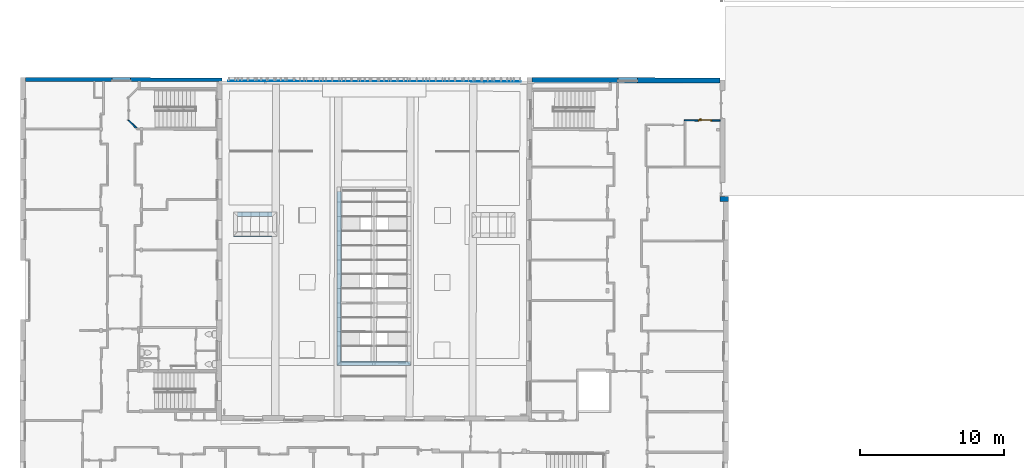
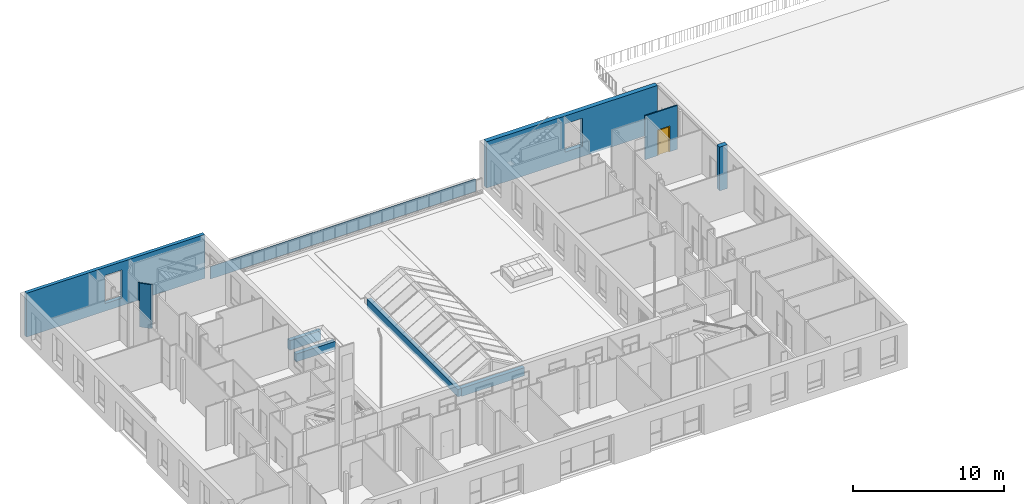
# One storey, part 89 of 101: 10 walls, 1 door, 3 openings.
"""IFC2X3 building model written with IfcOpenShell, lengths in metres."""

from ifc_helpers import new_model, entity, si_unit, converted_unit, derived_unit, direction, frame, frame_2d, origin, place, context, subcontext, project, spatial, polyline, rectangle, outline, extrude, faceted_brep, source, transform, mapped, material, material_list, layer, layer_set, layer_usage, type_object, type_shapes, element, fill, save


model = new_model("IFC2X3")

# Units and contexts
model_context = context("Model", 3, precision=1e-05, world=origin(), true_north=direction((6.123233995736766e-17, 1.0)))
body_context = subcontext(model_context, "Body", "Model", "MODEL_VIEW")
ifc_project = project(units=[si_unit("LENGTHUNIT", "METRE"), si_unit("AREAUNIT", "SQUARE_METRE"), converted_unit("PLANEANGLEUNIT", "DEGREE", entity("IfcPlaneAngleMeasure", 0.017453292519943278), si_unit("PLANEANGLEUNIT", "RADIAN"), dimensions=[0, 0, 0, 0, 0, 0, 0]), derived_unit("THERMALTRANSMITTANCEUNIT", [(si_unit("MASSUNIT", "GRAM", prefix="KILO"), 1), (si_unit("THERMODYNAMICTEMPERATUREUNIT", "KELVIN"), -1), (si_unit("TIMEUNIT", "SECOND"), -3)])], contexts=[model_context])

# Site, building, storey
site_placement = place(None, frame((1253.6752467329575, 2072.143113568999, 91.49999999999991), z_axis=(0.0, 0.0, 1.0), x_axis=(0.7237211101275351, 0.6900925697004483, 0.0)))
site = spatial("IfcSite", under=ifc_project, at=site_placement, Name="Surface", CompositionType="ELEMENT")
building_placement = place(site_placement, origin())
building = spatial("IfcBuilding", under=site, at=building_placement, CompositionType="ELEMENT")
storey_placement = place(building_placement, origin())
storey = spatial("IfcBuildingStorey", under=building, at=storey_placement, Name="0- Rdc", CompositionType="ELEMENT", Elevation=-5.764692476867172e-13)

# Wall
ifc_material_1 = material(Name="OMD_Béton blanc")
ifc_layer_1 = layer(ifc_material_1, 0.35)
ifc_layer_set_1 = layer_set([ifc_layer_1], Name="Mur de base:MUR 35")
ifc_layer_usage_1 = layer_usage(ifc_layer_set_1, "AXIS2", "NEGATIVE", 0.175)
wall_type_1 = type_object("IfcWallType", Name="Mur de base:MUR 35", PredefinedType="STANDARD", material=ifc_layer_set_1)
wall_1_placement = place(storey_placement, frame((195.5185659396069, -11.905046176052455, 0.0), z_axis=(0.0, 0.0, 1.0), x_axis=(0.722870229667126, -0.6909838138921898, 0.0)))
element("IfcWallStandardCase", 1, at=wall_1_placement, inside=storey, type_object=wall_type_1, material=ifc_layer_usage_1, Name="Mur de base:MUR 35", ObjectType="Mur de base:MUR 35", context=body_context, shape_type="SweptSolid", body=[
    extrude(rectangle(XDim=0.5947086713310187, YDim=0.3499999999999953, at=frame_2d((0.29735433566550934, 4.3021142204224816e-16), x_axis=(-1.0, 0.0))), origin(), (0.0, 0.0, 1.0), 3.5499999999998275),
])

# Wall, opening
ifc_layer_usage_2 = layer_usage(ifc_layer_set_1, "AXIS2", "NEGATIVE", 0.175)
wall_2_placement = place(storey_placement, frame((191.759474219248, 3.0890671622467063, -0.20000000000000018), z_axis=(0.0, 0.0, 1.0), x_axis=(0.7228702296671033, -0.6909838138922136, 0.0)))
wall_2 = element("IfcWallStandardCase", 2, at=wall_2_placement, inside=storey, type_object=wall_type_1, material=ifc_layer_usage_2, Name="Mur de base:MUR 35", ObjectType="Mur de base:MUR 35", context=body_context, shape_type="SweptSolid", body=[
    extrude(outline(polyline([(-0.16602945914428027, -6.535731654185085), (0.18397087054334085, -6.535731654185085), (0.16602924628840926, 6.535886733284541), (-0.18397065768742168, 6.535576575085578), (-0.16602945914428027, -6.535731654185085)])), frame((6.535822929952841, 0.0, 0.0), z_axis=(0.0, 0.0, 1.0), x_axis=(0.0013725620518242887, 0.9999990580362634, 0.0)), (0.0, 0.0, 1.0), 3.749999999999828),
])
opening_1_placement = place(storey_placement, frame((191.759474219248, 3.0890671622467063, -0.20000000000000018), z_axis=(0.0, 0.0, 1.0), x_axis=(0.7228702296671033, -0.6909838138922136, 0.0)))
element("IfcOpeningElement", 3, at=opening_1_placement, cuts=wall_2, Name="Mur de base:MUR 35:1", ObjectType="Opening", context=body_context, shape_type="SweptSolid", body=[
    extrude(rectangle(XDim=2.280000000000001, YDim=1.3331914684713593, at=frame_2d((-1.1102230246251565e-16, -1.8485213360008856e-14), x_axis=(1.0, 0.0))), frame((6.659329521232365, 0.17499999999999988, 1.960000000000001), z_axis=(0.0, -1.0, 0.0), x_axis=(0.0, 0.0, -1.0)), (0.0, 0.0, 1.0), 0.34999999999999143),
])

ifc_layer_2 = layer(ifc_material_1, 0.25999999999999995)
ifc_layer_set_2 = layer_set([ifc_layer_2], Name="Mur de base:MUR 26")
ifc_layer_usage_3 = layer_usage(ifc_layer_set_2, "AXIS2", "NEGATIVE", 0.12999999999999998)
wall_type_2 = type_object("IfcWallType", Name="Mur de base:MUR 26", PredefinedType="STANDARD", material=ifc_layer_set_2)
wall_3_placement = place(storey_placement, frame((166.33860651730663, 27.39110752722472, 0.0), z_axis=(0.0, 0.0, 1.0), x_axis=(0.7228702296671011, -0.6909838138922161, 0.0)))
wall_3 = element("IfcWallStandardCase", 4, at=wall_3_placement, inside=storey, type_object=wall_type_2, material=ifc_layer_usage_3, Name="Mur de base:MUR 26", ObjectType="Mur de base:MUR 26", context=body_context, shape_type="SweptSolid", body=[
    extrude(outline(polyline([(-0.047272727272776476, -6.672910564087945), (0.21272727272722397, -6.672910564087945), (0.21272727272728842, 6.96806684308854), (-0.04727272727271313, 6.968128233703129), (-0.04727272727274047, 2.2470894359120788), (-0.04727272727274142, 2.177089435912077), (-0.04727272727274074, 1.6270894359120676), (-0.04727272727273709, 1.4970894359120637), (-0.04727272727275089, -0.8429105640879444), (-0.047272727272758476, -0.9729105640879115), (-0.04727272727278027, -6.322910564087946), (-0.047272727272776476, -6.672910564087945)])), frame((6.968128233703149, -0.08272727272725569, 0.0), z_axis=(0.0, 0.0, 1.0), x_axis=(0.0, 1.0, 0.0)), (0.0, 0.0, 1.0), 3.5499999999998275),
])
opening_2_placement = place(storey_placement, frame((166.33860651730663, 27.39110752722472, 0.0), z_axis=(0.0, 0.0, 1.0), x_axis=(0.7228702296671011, -0.6909838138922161, 0.0)))
element("IfcOpeningElement", 5, at=opening_2_placement, cuts=wall_3, Name="Mur de base:MUR 26:1", ObjectType="Opening", context=body_context, shape_type="SweptSolid", body=[
    extrude(rectangle(XDim=2.2799999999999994, YDim=1.2996959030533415, at=frame_2d((1.1102230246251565e-16, -2.758904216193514e-14), x_axis=(1.0, 0.0))), frame((6.644364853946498, -0.12999999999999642, 1.76), z_axis=(0.0, 1.0, 0.0), x_axis=(0.0, 0.0, -1.0)), (0.0, 0.0, 1.0), 0.25999999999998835),
])

# Wall, opening, door
ifc_layer_3 = layer(ifc_material_1, 0.1)
ifc_layer_set_3 = layer_set([ifc_layer_3], Name="Mur de base:MUR 10")
ifc_layer_usage_4 = layer_usage(ifc_layer_set_3, "AXIS2", "NEGATIVE", 0.05)
wall_type_3 = type_object("IfcWallType", Name="Mur de base:MUR 10", PredefinedType="STANDARD", material=ifc_layer_set_3)
wall_4_placement = place(storey_placement, frame((197.50618801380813, -6.2449982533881, 0.0), z_axis=(0.0, 0.0, 1.0), x_axis=(0.7228702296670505, -0.6909838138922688, 0.0)))
wall_4 = element("IfcWallStandardCase", 6, at=wall_4_placement, inside=storey, type_object=wall_type_3, material=ifc_layer_usage_4, Name="Mur de base:MUR 10", ObjectType="Mur de base:MUR 10", context=body_context, shape_type="SweptSolid", body=[
    extrude(rectangle(XDim=2.4742086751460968, YDim=0.10000000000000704, at=frame_2d((1.2371043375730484, 1.0998146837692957e-15), x_axis=(-1.0, 0.0))), origin(), (0.0, 0.0, 1.0), 3.5499999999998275),
])
opening_3_placement = place(wall_4_placement, frame((0.9414173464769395, -0.05000000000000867, 0.0)))
opening_3 = element("IfcOpeningElement", 7, at=opening_3_placement, cuts=wall_4, Name="OMD_Porte 1V tunnel:80x204:1", ObjectType="Opening", context=body_context, shape_type="SweptSolid", body=[
    extrude(rectangle(XDim=2.0850000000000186, YDim=0.9349999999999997, at=frame_2d((1.0425000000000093, 0.46749999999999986), x_axis=(1.0, 0.0))), frame((0.0, 0.0, 0.0), z_axis=(0.0, 1.0, 0.0), x_axis=(0.0, 0.0, 1.0)), (0.0, 0.0, 1.0), 0.1),
])
ifc_material_2 = material(Name="Porte - Poignée")
ifc_material_3 = material(Name="OMD_Peinture mur")
ifc_material_4 = material(Name="OMD_Bois")
ifc_material_list = material_list([ifc_material_2, ifc_material_3, ifc_material_4])
door_style = type_object("IfcDoorStyle", Name="OMD_Porte 1V tunnel:80x204", ConstructionType="NOTDEFINED", OperationType="NOTDEFINED", ParameterTakesPrecedence=False, Sizeable=False, material=ifc_material_list)
shared_shape = source(origin(), body_context, "Body", "Brep", [
    faceted_brep([(0.8220252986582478, 0.03500000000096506, 1.0077804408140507), (0.8179747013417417, 0.03500000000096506, 1.007780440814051), (0.8139999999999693, 0.03500000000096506, 1.00699999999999), (0.8139999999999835, 0.03500000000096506, 0.9930000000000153), (0.8179747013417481, 0.03500000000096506, 0.9922195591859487), (0.8220252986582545, 0.03500000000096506, 0.9922195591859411), (0.8260000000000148, 0.03500000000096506, 0.9929999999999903), (0.826000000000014, 0.03500000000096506, 1.006999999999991), (0.8139999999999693, 0.05748520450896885, 1.00699999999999), (0.8139999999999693, 0.05748520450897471, 0.9930000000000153), (0.8179747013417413, 0.059131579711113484, 1.007780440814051), (0.8220252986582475, 0.060809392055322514, 1.0077804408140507), (0.8058389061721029, 0.07699578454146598, 1.0077804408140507), (0.8041610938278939, 0.07294518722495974, 1.007780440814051), (0.7207931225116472, 0.07294518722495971, 1.0077804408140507), (0.7191153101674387, 0.07699578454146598, 1.0077804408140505), (0.7114510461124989, 0.06933152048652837, 1.0077804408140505), (0.714315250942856, 0.0664673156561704, 1.0077804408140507), (0.8260000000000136, 0.062455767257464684, 1.006999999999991), (0.8260000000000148, 0.062455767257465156, 0.9929999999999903), (0.8220252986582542, 0.06080939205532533, 0.9922195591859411), (0.8179747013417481, 0.05913157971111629, 0.9922195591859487), (0.8041610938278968, 0.07294518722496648, 0.9922195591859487), (0.8058389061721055, 0.07699578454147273, 0.9922195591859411), (0.7191153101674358, 0.07699578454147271, 0.9922195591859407), (0.7207931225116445, 0.07294518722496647, 0.9922195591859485), (0.7143152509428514, 0.06646731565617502, 0.9922195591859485), (0.7114510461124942, 0.06933152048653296, 0.9922195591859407), (0.8025147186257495, 0.06897048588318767, 1.00699999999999), (0.8025147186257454, 0.06897048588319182, 0.9930000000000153), (0.8074852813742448, 0.08097048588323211, 1.006999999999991), (0.8074852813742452, 0.08097048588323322, 0.9929999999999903), (0.7624771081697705, 0.06897048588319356, 1.0069999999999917), (0.7224394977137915, 0.06897048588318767, 1.0069999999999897), (0.7224394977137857, 0.0689704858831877, 0.9930000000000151), (0.7624771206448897, 0.06897048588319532, 0.9930000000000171), (0.7624771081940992, 0.07512492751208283, 1.0078781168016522), (0.7573994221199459, 0.08097048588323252, 1.0069999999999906), (0.7174689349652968, 0.08097048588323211, 1.0069999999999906), (0.7675547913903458, 0.08097048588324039, 0.9929999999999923), (0.7174689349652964, 0.08097048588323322, 0.99299999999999), (0.762477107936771, 0.07512492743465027, 0.9921218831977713), (0.7086405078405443, 0.07214205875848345, 1.0069999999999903), (0.7086405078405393, 0.07214205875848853, 0.9929999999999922), (0.7171257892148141, 0.06365677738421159, 0.9930000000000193), (0.71712578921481, 0.06365677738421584, 1.0069999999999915)], [[[0, 1, 2, 3, 4, 5, 6, 7]], [[8, 9, 3, 2]], [[1, 10, 8, 2]], [[1, 0, 11, 12, 13, 10]], [[14, 15, 16, 17]], [[7, 18, 11, 0]], [[18, 7, 6, 19]], [[6, 5, 20, 19]], [[5, 4, 21, 22, 23, 20]], [[24, 25, 26, 27]], [[4, 3, 9, 21]], [[28, 29, 9, 8]], [[8, 10, 13, 28]], [[18, 30, 12, 11]], [[31, 30, 18, 19]], [[19, 20, 23, 31]], [[21, 9, 29, 22]], [[29, 28, 32, 33, 34, 35]], [[36, 32, 13]], [[37, 38, 15]], [[37, 12, 30]], [[36, 12, 37]], [[14, 32, 36]], [[36, 15, 14]], [[28, 13, 32]], [[32, 14, 33]], [[12, 36, 13]], [[15, 36, 37]], [[30, 31, 39, 40, 38, 37]], [[23, 41, 39]], [[24, 39, 41]], [[39, 31, 23]], [[39, 24, 40]], [[22, 35, 41]], [[41, 23, 22]], [[41, 35, 25]], [[35, 22, 29]], [[34, 25, 35]], [[24, 41, 25]], [[17, 16, 42, 43, 27, 26, 44, 45]], [[45, 44, 34, 33]], [[33, 14, 17, 45]], [[15, 38, 42, 16]], [[43, 42, 38, 40]], [[24, 27, 43, 40]], [[34, 44, 26, 25]]]),
    faceted_brep([(0.817974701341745, -0.004999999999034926, 1.007780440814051), (0.8220252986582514, -0.004999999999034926, 1.0077804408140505), (0.8260000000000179, -0.004999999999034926, 1.0069999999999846), (0.8260000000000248, -0.004999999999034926, 0.9929999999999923), (0.8220252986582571, -0.004999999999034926, 0.992219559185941), (0.817974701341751, -0.004999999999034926, 0.9922195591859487), (0.8139999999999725, -0.004999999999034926, 0.9930000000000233), (0.8139999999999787, -0.004999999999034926, 1.006999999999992), (0.8220252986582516, -0.03100457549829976, 1.0077804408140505), (0.8260000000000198, -0.03265095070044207, 1.0069999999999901), (0.8179747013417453, -0.02932676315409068, 1.007780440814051), (0.8042986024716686, -0.04300286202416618, 1.007780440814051), (0.8059764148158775, -0.04705345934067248, 1.0077804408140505), (0.7191424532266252, -0.04705345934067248, 1.0077804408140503), (0.7208202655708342, -0.04300286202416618, 1.0077804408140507), (0.714342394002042, -0.03652499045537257, 1.0077804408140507), (0.7114781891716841, -0.039389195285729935, 1.0077804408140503), (0.813999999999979, -0.02768038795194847, 1.006999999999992), (0.8139999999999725, -0.02768038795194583, 0.9930000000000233), (0.817974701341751, -0.029326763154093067, 0.9922195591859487), (0.8220252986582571, -0.031004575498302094, 0.992219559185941), (0.8059764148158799, -0.0470534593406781, 0.992219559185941), (0.804298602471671, -0.04300286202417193, 0.9922195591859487), (0.7208202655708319, -0.04300286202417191, 0.9922195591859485), (0.7191424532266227, -0.047053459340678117, 0.9922195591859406), (0.71147818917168, -0.03938919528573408, 0.9922195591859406), (0.7143423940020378, -0.036524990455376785, 0.9922195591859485), (0.8260000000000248, -0.032650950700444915, 0.9929999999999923), (0.807622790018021, -0.051028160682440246, 1.0069999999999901), (0.8026522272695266, -0.03902816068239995, 1.006999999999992), (0.8026522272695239, -0.03902816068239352, 0.9930000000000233), (0.8076227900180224, -0.05102816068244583, 0.9929999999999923), (0.762559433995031, -0.0451828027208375, 1.0078781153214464), (0.7676923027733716, -0.05102816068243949, 1.0069999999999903), (0.7174960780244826, -0.05102816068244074, 1.00699999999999), (0.7625594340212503, -0.03902816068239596, 1.0069999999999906), (0.7224666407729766, -0.039028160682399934, 1.0069999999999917), (0.7625594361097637, -0.03902816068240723, 0.9930000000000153), (0.7224666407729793, -0.03902816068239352, 0.9930000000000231), (0.7625594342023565, -0.04518280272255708, 0.9921218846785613), (0.7574265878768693, -0.051028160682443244, 0.9929999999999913), (0.7174960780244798, -0.05102816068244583, 0.9929999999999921), (0.7171529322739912, -0.033714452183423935, 0.9930000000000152), (0.7086676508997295, -0.04219973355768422, 0.9929999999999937), (0.7086676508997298, -0.04219973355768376, 1.0069999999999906), (0.717152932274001, -0.03371445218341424, 1.0069999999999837)], [[[0, 1, 2, 3, 4, 5, 6, 7]], [[2, 1, 8, 9]], [[1, 0, 10, 11, 12, 8]], [[13, 14, 15, 16]], [[0, 7, 17, 10]], [[18, 17, 7, 6]], [[5, 19, 18, 6]], [[5, 4, 20, 21, 22, 19]], [[23, 24, 25, 26]], [[3, 27, 20, 4]], [[9, 27, 3, 2]], [[9, 8, 12, 28]], [[10, 17, 29, 11]], [[30, 29, 17, 18]], [[18, 19, 22, 30]], [[20, 27, 31, 21]], [[28, 31, 27, 9]], [[12, 32, 33]], [[13, 33, 32]], [[33, 28, 12]], [[33, 13, 34]], [[11, 35, 32]], [[32, 12, 11]], [[32, 35, 14]], [[35, 11, 29]], [[36, 14, 35]], [[13, 32, 14]], [[29, 30, 37, 38, 36, 35]], [[39, 37, 22]], [[40, 41, 24]], [[40, 21, 31]], [[39, 21, 40]], [[23, 37, 39]], [[39, 24, 23]], [[30, 22, 37]], [[37, 23, 38]], [[21, 39, 22]], [[24, 39, 40]], [[31, 28, 33, 34, 41, 40]], [[42, 26, 25, 43, 44, 16, 15, 45]], [[13, 16, 44, 34]], [[36, 45, 15, 14]], [[42, 45, 36, 38]], [[38, 23, 26, 42]], [[24, 41, 43, 25]], [[44, 43, 41, 34]]]),
    faceted_brep([(0.8199999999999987, 0.030000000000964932, 0.8646410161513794), (0.8303527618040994, 0.03000000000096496, 0.866003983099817), (0.8399999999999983, 0.030000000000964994, 0.8700000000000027), (0.8399999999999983, 0.030000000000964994, 1.0800000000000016), (0.8303527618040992, 0.03000000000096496, 1.0839960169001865), (0.8199999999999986, 0.030000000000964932, 1.0853589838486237), (0.809647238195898, 0.030000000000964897, 1.0839960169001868), (0.7999999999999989, 0.030000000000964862, 1.0800000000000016), (0.7999999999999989, 0.030000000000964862, 0.8700000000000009), (0.8096472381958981, 0.030000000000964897, 0.8660039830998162), (0.8199999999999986, 0.03500000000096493, 1.0853589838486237), (0.8303527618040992, 0.03500000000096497, 1.0839960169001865), (0.8399999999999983, 0.035000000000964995, 1.0800000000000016), (0.8399999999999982, 0.035000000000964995, 0.8700000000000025), (0.8303527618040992, 0.03500000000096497, 0.866003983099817), (0.8199999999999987, 0.03500000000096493, 0.8646410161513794), (0.8096472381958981, 0.0350000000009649, 0.8660039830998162), (0.7999999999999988, 0.03500000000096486, 0.8700000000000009), (0.7999999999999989, 0.03500000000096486, 1.0800000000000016), (0.809647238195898, 0.0350000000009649, 1.0839960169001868)], [[[0, 1, 2, 3, 4, 5, 6, 7, 8, 9]], [[10, 11, 12, 13, 14, 15, 16, 17, 18, 19]], [[6, 19, 18, 7]], [[5, 10, 19, 6]], [[4, 11, 10, 5]], [[4, 3, 12, 11]], [[12, 3, 2, 13]], [[1, 14, 13, 2]], [[0, 15, 14, 1]], [[9, 16, 15, 0]], [[9, 8, 17, 16]], [[17, 8, 7, 18]]]),
    faceted_brep([(0.819999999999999, -0.004999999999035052, 0.8646410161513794), (0.8303527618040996, -0.0049999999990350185, 0.8660039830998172), (0.8399999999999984, -0.004999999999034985, 0.8700000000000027), (0.8399999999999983, -0.004999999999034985, 1.0800000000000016), (0.8303527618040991, -0.0049999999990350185, 1.0839960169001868), (0.8199999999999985, -0.004999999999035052, 1.0853589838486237), (0.8096472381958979, -0.004999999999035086, 1.0839960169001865), (0.7999999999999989, -0.004999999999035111, 1.0800000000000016), (0.7999999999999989, -0.004999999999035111, 0.8700000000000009), (0.8096472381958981, -0.004999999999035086, 0.8660039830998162), (0.8399999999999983, 0.0, 1.0800000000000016), (0.8399999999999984, 0.0, 0.8700000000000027), (0.8303527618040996, 0.0, 0.8660039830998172), (0.819999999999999, 0.0, 0.8646410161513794), (0.8096472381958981, 0.0, 0.8660039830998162), (0.7999999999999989, 0.0, 0.8700000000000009), (0.7999999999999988, 0.0, 1.0800000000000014), (0.8096472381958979, 0.0, 1.0839960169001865), (0.8199999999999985, 0.0, 1.0853589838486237), (0.8303527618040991, 0.0, 1.0839960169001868)], [[[0, 1, 2, 3, 4, 5, 6, 7, 8, 9]], [[10, 11, 12, 13, 14, 15, 16, 17, 18, 19]], [[1, 12, 11, 2]], [[0, 13, 12, 1]], [[9, 14, 13, 0]], [[9, 8, 15, 14]], [[15, 8, 7, 16]], [[6, 17, 16, 7]], [[5, 18, 17, 6]], [[4, 19, 18, 5]], [[4, 3, 10, 19]], [[10, 3, 2, 11]]]),
    faceted_brep([(0.89, 0.030000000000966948, 0.0), (0.89, 0.0, 0.0), (0.04500000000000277, 0.0, 0.0), (0.04500000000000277, 0.030000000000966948, 0.0), (0.89, 0.030000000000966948, 2.04), (0.89, 0.0, 2.04), (0.04500000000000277, 0.0, 2.04), (0.04500000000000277, 0.030000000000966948, 2.04)], [[[0, 1, 2, 3]], [[4, 5, 1, 0]], [[5, 6, 2, 1]], [[6, 7, 3, 2]], [[7, 4, 0, 3]], [[4, 7, 6, 5]]]),
    faceted_brep([(0.9350000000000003, 0.0, 0.0), (0.89, 0.0, 0.0), (0.8900000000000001, 0.03000000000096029, 0.0), (0.8750000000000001, 0.030000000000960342, 0.0), (0.8750000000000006, 0.10000000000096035, 0.0), (0.9350000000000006, 0.10000000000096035, 0.0), (0.9350000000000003, 0.0, 2.085), (0.0, 0.0, 2.085), (0.0, 0.0, 0.0), (0.04500000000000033, 0.0, 0.0), (0.04500000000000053, 0.0, 2.04), (0.8899999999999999, 0.0, 2.0399999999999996), (0.89, 0.030000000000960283, 2.0399999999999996), (0.0450000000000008, 0.03000000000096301, 2.0399999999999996), (0.0450000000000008, 0.030000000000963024, 0.0), (0.060000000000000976, 0.030000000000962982, 0.0), (0.060000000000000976, 0.03000000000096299, 2.0249999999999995), (0.8750000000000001, 0.03000000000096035, 2.025), (0.8750000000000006, 0.10000000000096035, 2.0250000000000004), (0.060000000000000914, 0.10000000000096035, 2.025), (0.060000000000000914, 0.10000000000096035, 0.0), (0.0, 0.10000000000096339, 0.0), (0.0, 0.10000000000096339, 2.085), (0.9350000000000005, 0.10000000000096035, 2.085)], [[[0, 1, 2, 3, 4, 5]], [[1, 0, 6, 7, 8, 9, 10, 11]], [[2, 1, 11, 12]], [[3, 2, 12, 13, 14, 15, 16, 17]], [[4, 3, 17, 18]], [[5, 4, 18, 19, 20, 21, 22, 23]], [[0, 5, 23, 6]], [[7, 22, 21, 8]], [[8, 21, 20, 15, 14, 9]], [[13, 10, 9, 14]], [[19, 16, 15, 20]], [[12, 11, 10, 13]], [[18, 17, 16, 19]], [[6, 23, 22, 7]]]),
])
type_shapes(door_style, [shared_shape])
door_placement = place(opening_3_placement, frame((0.9349999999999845, 0.10000000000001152, 0.0), z_axis=(0.0, 0.0, 1.0), x_axis=(-1.0, 0.0, 0.0)))
door = element("IfcDoor", 8, at=door_placement, inside=storey, type_object=door_style, material=ifc_material_list, Name="OMD_Porte 1V tunnel:80x204", ObjectType="OMD_Porte 1V tunnel:80x204", OverallHeight=2.0850000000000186, OverallWidth=0.9349999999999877, context=body_context, shape_type="MappedRepresentation", body=[
    mapped(shared_shape, transform((0.0, 0.0, 0.0), scale=1.0)),
])
fill(opening_3, door)

# Walls
wall_5_placement = place(storey_placement, frame((169.56837684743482, 19.574746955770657, 0.0), z_axis=(0.0, 0.0, 1.0), x_axis=(-0.022547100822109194, 0.9997457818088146, 0.0)))
element("IfcWall", 9, at=wall_5_placement, inside=storey, type_object=wall_type_3, Name="Mur de base:MUR 10", ObjectType="Mur de base:MUR 10", context=body_context, shape_type="Brep", body=[
    faceted_brep([(0.9899494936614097, -0.04999999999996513, 3.5499999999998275), (0.8485281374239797, -0.049999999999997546, 3.5499999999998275), (0.0, -0.05000000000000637, 3.5499999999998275), (0.0, -0.05000000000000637, 0.0), (0.8485281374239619, -0.04999999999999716, 0.0), (0.8485281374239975, -0.049999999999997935, 2.085), (0.9899494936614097, -0.04999999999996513, 2.085), (0.09999999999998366, 0.050000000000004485, 3.5499999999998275), (0.8899494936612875, 0.05000000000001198, 3.5499999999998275), (0.8899494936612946, 0.05000000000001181, 2.085), (0.8774313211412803, 0.05000000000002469, 2.085), (0.8774313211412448, 0.05000000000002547, 0.0), (0.09999999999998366, 0.050000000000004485, 0.0), (0.8129797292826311, -0.014451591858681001, 0.0), (0.8129797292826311, -0.014451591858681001, 2.085)], [[[0, 1, 2, 3, 4, 5, 6]], [[7, 8, 9, 10, 11, 12]], [[2, 1, 0, 8, 7]], [[3, 12, 11, 13, 4]], [[3, 2, 7, 12]], [[8, 0, 6, 9]], [[13, 14, 5, 4]], [[14, 13, 11, 10]], [[5, 14, 10, 9, 6]]]),
])
ifc_material_5 = material(Name="OMD_Cloison Stratifiée")
ifc_layer_4 = layer(ifc_material_5, 0.02)
ifc_layer_set_4 = layer_set([ifc_layer_4], Name="Mur de base:Cloison 20 Stratifiée")
ifc_layer_usage_5 = layer_usage(ifc_layer_set_4, "AXIS2", "NEGATIVE", 0.010000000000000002)
wall_type_4 = type_object("IfcWallType", Name="Mur de base:Cloison 20 Stratifiée", PredefinedType="STANDARD", material=ifc_layer_set_4)
wall_6_placement = place(storey_placement, frame((176.44934458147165, 17.597221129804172, -0.23773422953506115), z_axis=(0.0, 0.0, 1.0), x_axis=(0.7228761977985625, -0.6909775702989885, 0.0)))
element("IfcWallStandardCase", 10, at=wall_6_placement, inside=storey, type_object=wall_type_4, material=ifc_layer_usage_5, Name="Mur de base:Cloison 20 Stratifiée", ObjectType="Mur de base:Cloison 20 Stratifiée", context=body_context, shape_type="SweptSolid", body=[
    extrude(rectangle(XDim=0.020000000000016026, YDim=20.30639395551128, at=frame_2d((5.412337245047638e-16, 0.0), x_axis=(1.0, 0.0))), frame((10.153196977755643, 0.0, 0.0), z_axis=(0.0, 0.0, 1.0), x_axis=(0.0, 1.0, 0.0)), (0.0, 0.0, 1.0), 1.020000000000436),
])
ifc_material_6 = material(Name="Maçonnerie - Isolant")
ifc_layer_5 = layer(ifc_material_6, 0.1)
ifc_material_7 = material(Name="Béton - Béton coulé sur place")
ifc_layer_6 = layer(ifc_material_7, 0.2)
ifc_layer_set_5 = layer_set([ifc_layer_5, ifc_layer_6], Name="Mur de base:BA 20 + isol")
wall_type_5 = type_object("IfcWallType", Name="Mur de base:BA 20 + isol", PredefinedType="STANDARD", material=ifc_layer_set_5)
wall_7_placement = place(storey_placement, frame((168.37855094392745, -2.0083349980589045, -0.5420918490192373), z_axis=(0.0, 0.0, 1.0), x_axis=(0.6909838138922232, 0.7228702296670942, 0.0)))
element("IfcWall", 11, at=wall_7_placement, inside=storey, type_object=wall_type_5, Name="Mur de base:BA 20 + isol", ObjectType="Mur de base:BA 20 + isol", context=body_context, shape_type="Brep", body=[
    faceted_brep([(0.0, -0.14999999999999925, 0.10763081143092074), (12.091428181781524, -0.14999999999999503, 0.0), (12.091428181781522, -0.1499999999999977, 0.7062949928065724), (0.0, -0.15000000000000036, 0.7062949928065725), (0.00013623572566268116, 0.14999999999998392, 0.10762959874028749), (0.0001362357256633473, 0.1499999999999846, 0.7062949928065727), (12.091428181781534, 0.14999999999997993, 0.7062949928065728), (12.091428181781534, 0.14999999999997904, 0.0), (9.08238170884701e-05, 0.05000000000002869, 0.7062949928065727), (12.091428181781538, 0.0, 0.7062949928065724), (12.091428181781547, 0.05000000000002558, 0.7062949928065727)], [[[0, 1, 2, 3]], [[4, 5, 6, 7]], [[0, 3, 8, 5, 4]], [[3, 2, 9, 10, 8]], [[2, 1, 7, 6, 10, 9]], [[1, 0, 4, 7]], [[10, 6, 5, 8]]]),
])
wall_8_placement = place(storey_placement, frame((172.06960171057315, -5.332088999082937, -0.5000000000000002), z_axis=(0.0, 0.0, 1.0), x_axis=(-0.7225563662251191, 0.6913120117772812, 0.0)))
element("IfcWall", 12, at=wall_8_placement, inside=storey, type_object=wall_type_5, Name="Mur de base:BA 20 + isol", ObjectType="Mur de base:BA 20 + isol", context=body_context, shape_type="Brep", body=[
    faceted_brep([(0.0, -0.15000000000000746, 0.0), (4.814879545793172, -0.15000000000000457, 0.0), (4.814879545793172, -0.15000000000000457, 0.6647207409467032), (0.3000001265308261, -0.15000000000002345, 0.6647207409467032), (0.0, -0.15000000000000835, 0.6647207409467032), (0.0, -0.15000000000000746, 0.06338430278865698), (0.00027553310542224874, 0.14999999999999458, 0.0), (0.00027553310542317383, 0.14999999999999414, 0.6647207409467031), (4.814743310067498, 0.14999999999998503, 0.6647207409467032), (4.814743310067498, 0.14999999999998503, 0.6642031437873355), (4.814743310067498, 0.14999999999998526, 0.06553896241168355), (4.814743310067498, 0.14999999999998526, 0.0), (0.00018368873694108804, 0.049999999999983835, 0.6647207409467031), (0.0001836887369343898, 0.04999999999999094, 0.0), (4.814788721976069, 0.049999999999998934, 0.0), (4.814788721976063, 0.05000000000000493, 0.6647207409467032)], [[[0, 1, 2, 3, 4, 5]], [[6, 7, 8, 9, 10, 11]], [[0, 5, 4, 12, 7, 6, 13]], [[2, 1, 14, 11, 10, 9, 8, 15]], [[1, 0, 13, 14]], [[13, 6, 11, 14]], [[15, 8, 7, 12]], [[4, 3, 2, 15, 12]]]),
])
wall_9_placement = place(storey_placement, frame((169.36297297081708, 9.655794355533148, -0.53), z_axis=(0.0, 0.0, 1.0), x_axis=(0.7228702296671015, -0.6909838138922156, 0.0)))
element("IfcWall", 13, at=wall_9_placement, inside=storey, type_object=wall_type_5, Name="Mur de base:BA 20 + isol", ObjectType="Mur de base:BA 20 + isol", context=body_context, shape_type="Brep", body=[
    faceted_brep([(2.817290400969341e-09, -0.15000000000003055, 0.0), (2.984231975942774, -0.150000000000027, 0.0), (2.984231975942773, -0.150000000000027, 0.636066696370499), (2.817290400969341e-09, -0.15000000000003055, 0.636066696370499), (0.0, 0.14999999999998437, 0.0173369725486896), (0.0, 0.14999999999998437, 0.636066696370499), (2.9846437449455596, 0.14999999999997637, 0.636066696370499), (2.9846437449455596, 0.14999999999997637, 0.0173369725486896), (1.8781669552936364e-09, -0.0500000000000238, 0.636066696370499), (1.8781669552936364e-09, -0.0500000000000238, 0.0173369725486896), (1.878165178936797e-09, -0.05000000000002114, 0.0), (2.98436923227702, -0.05000000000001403, 0.0), (2.9843692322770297, -0.0500000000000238, 0.0173369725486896), (2.984369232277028, -0.05000000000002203, 0.636066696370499)], [[[0, 1, 2, 3]], [[4, 5, 6, 7]], [[0, 3, 8, 5, 4, 9, 10]], [[2, 1, 11, 12, 7, 6, 13]], [[3, 2, 13, 8]], [[1, 0, 10, 11]], [[13, 6, 5, 8]], [[11, 10, 9, 12]], [[9, 4, 7, 12]]]),
])
wall_10_placement = place(storey_placement, frame((172.25789363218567, 8.796317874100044, -0.53), z_axis=(0.0, 0.0, 1.0), x_axis=(-0.7228702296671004, 0.6909838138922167, 0.0)))
element("IfcWall", 14, at=wall_10_placement, inside=storey, type_object=wall_type_5, Name="Mur de base:BA 20 + isol", ObjectType="Mur de base:BA 20 + isol", context=body_context, shape_type="Brep", body=[
    faceted_brep([(0.0, -0.15000000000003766, 0.0), (2.3865363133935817, -0.15000000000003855, 0.0), (2.3865363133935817, -0.15000000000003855, 0.7798871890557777), (0.0, -0.15000000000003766, 0.7798871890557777), (0.00041176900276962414, 0.14999999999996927, 0.0), (0.00041176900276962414, 0.14999999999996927, 0.7798871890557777), (2.3865363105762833, 0.1499999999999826, 0.7798871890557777), (2.3865363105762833, 0.1499999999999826, 0.0), (2.386536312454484, -0.050000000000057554, 0.0), (2.3865363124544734, -0.05000000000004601, 0.7798871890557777), (0.00013725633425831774, -0.05000000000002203, 0.7798871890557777), (0.00013725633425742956, -0.05000000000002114, 0.0)], [[[0, 1, 2, 3]], [[4, 5, 6, 7]], [[2, 1, 8, 7, 6, 9]], [[0, 3, 10, 5, 4, 11]], [[3, 2, 9, 10]], [[1, 0, 11, 8]], [[9, 6, 5, 10]], [[11, 4, 7, 8]]]),
])

save(model, "model.ifc")
